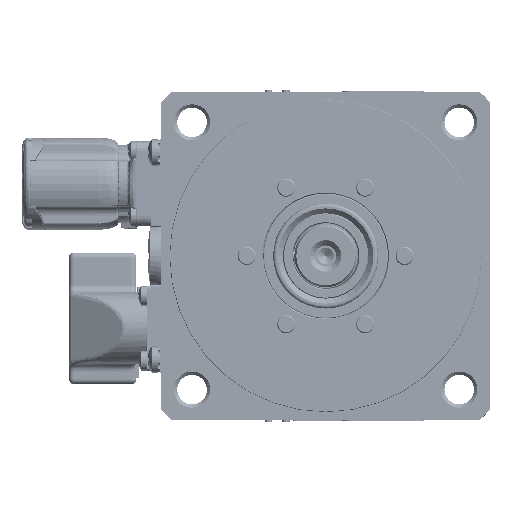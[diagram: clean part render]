
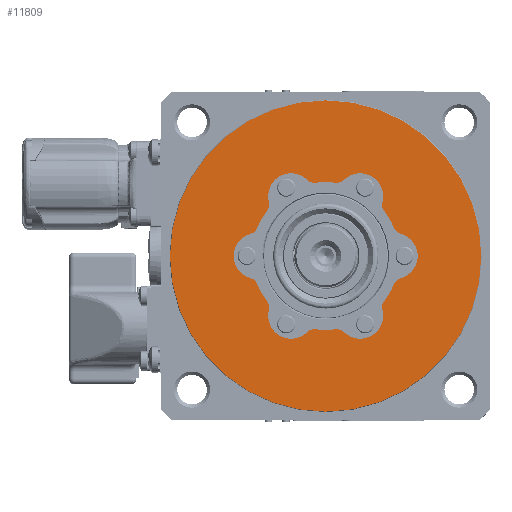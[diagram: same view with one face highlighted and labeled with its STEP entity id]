
A CAD part, left-side view. The second image highlights one B-rep face of the part: STEP entity #11809.
In plain terms, the highlighted planar face has unit normal (-1, 0, 0).
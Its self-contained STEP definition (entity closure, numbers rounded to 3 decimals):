
#169=CARTESIAN_POINT('',(1.,0.,
0.));
#170=DIRECTION('',(-1.,0.,0.));
#171=DIRECTION('',(0.,1.,0.));
#172=AXIS2_PLACEMENT_3D('',#169,#170,#171);
#177=CARTESIAN_POINT('',(1.,0.,
0.));
#178=DIRECTION('',(-1.,0.,0.));
#179=DIRECTION('',(0.,-1.,0.));
#180=AXIS2_PLACEMENT_3D('',#177,#178,#179);
#185=CARTESIAN_POINT('',(1.,0.,0.));
#186=DIRECTION('',(-1.,0.,0.));
#187=DIRECTION('',(0.,0.926,-0.379));
#188=AXIS2_PLACEMENT_3D('',#185,#186,#187);
#215=CARTESIAN_POINT('',(1.,0.,0.));
#216=DIRECTION('',(-1.,0.,0.));
#217=DIRECTION('',(0.,0.135,-0.991));
#218=AXIS2_PLACEMENT_3D('',#215,#216,#217);
#245=CARTESIAN_POINT('',(1.,0.,0.));
#246=DIRECTION('',(-1.,0.,0.));
#247=DIRECTION('',(0.,-0.791,-0.612));
#248=AXIS2_PLACEMENT_3D('',#245,#246,#247);
#275=CARTESIAN_POINT('',(1.,0.,0.));
#276=DIRECTION('',(-1.,0.,0.));
#277=DIRECTION('',(0.,-0.926,0.379));
#278=AXIS2_PLACEMENT_3D('',#275,#276,#277);
#305=CARTESIAN_POINT('',(1.,0.,0.));
#306=DIRECTION('',(-1.,0.,0.));
#307=DIRECTION('',(0.,-0.135,0.991));
#308=AXIS2_PLACEMENT_3D('',#305,#306,#307);
#342=CARTESIAN_POINT('',(1.,0.,0.));
#343=DIRECTION('',(-1.,0.,0.));
#344=DIRECTION('',(0.,0.791,0.612));
#345=AXIS2_PLACEMENT_3D('',#342,#343,#344);
#365=CARTESIAN_POINT('',(1.,23.601,-9.656));
#366=DIRECTION('',(-1.,0.,0.));
#367=DIRECTION('',(0.,-0.926,0.379));
#368=AXIS2_PLACEMENT_3D('',#365,#366,#367);
#381=CARTESIAN_POINT('',(1.,21.,0.));
#382=DIRECTION('',(-1.,0.,0.));
#383=DIRECTION('',(0.,0.26,0.966));
#384=AXIS2_PLACEMENT_3D('',#381,#382,#383);
#403=CARTESIAN_POINT('',(1.,23.601,9.656));
#404=DIRECTION('',(1.,0.,0.));
#405=DIRECTION('',(0.,-0.926,-0.379));
#406=AXIS2_PLACEMENT_3D('',#403,#404,#405);
#579=CARTESIAN_POINT('',(1.,20.163,15.611));
#580=DIRECTION('',(-1.,0.,0.));
#581=DIRECTION('',(0.,-0.791,-0.612));
#582=AXIS2_PLACEMENT_3D('',#579,#580,#581);
#595=CARTESIAN_POINT('',(1.,10.5,18.187));
#596=DIRECTION('',(-1.,0.,0.));
#597=DIRECTION('',(0.,-0.706,0.708));
#598=AXIS2_PLACEMENT_3D('',#595,#596,#597);
#617=CARTESIAN_POINT('',(1.,3.438,25.267));
#618=DIRECTION('',(1.,0.,0.));
#619=DIRECTION('',(0.,-0.135,-0.991));
#620=AXIS2_PLACEMENT_3D('',#617,#618,#619);
#633=CARTESIAN_POINT('',(1.,-3.438,25.267));
#634=DIRECTION('',(-1.,0.,0.));
#635=DIRECTION('',(0.,0.135,-0.991));
#636=AXIS2_PLACEMENT_3D('',#633,#634,#635);
#649=CARTESIAN_POINT('',(1.,-10.5,18.187));
#650=DIRECTION('',(-1.,0.,0.));
#651=DIRECTION('',(0.,-0.966,-0.258));
#652=AXIS2_PLACEMENT_3D('',#649,#650,#651);
#671=CARTESIAN_POINT('',(1.,-20.163,15.611));
#672=DIRECTION('',(1.,0.,0.));
#673=DIRECTION('',(0.,0.791,-0.612));
#674=AXIS2_PLACEMENT_3D('',#671,#672,#673);
#687=CARTESIAN_POINT('',(1.,-23.601,9.656));
#688=DIRECTION('',(-1.,0.,0.));
#689=DIRECTION('',(0.,0.926,-0.379));
#690=AXIS2_PLACEMENT_3D('',#687,#688,#689);
#703=CARTESIAN_POINT('',(1.,-21.,0.));
#704=DIRECTION('',(-1.,0.,0.));
#705=DIRECTION('',(0.,-0.26,-0.966));
#706=AXIS2_PLACEMENT_3D('',#703,#704,#705);
#725=CARTESIAN_POINT('',(1.,-23.601,-9.656));
#726=DIRECTION('',(1.,0.,0.));
#727=DIRECTION('',(0.,0.926,0.379));
#728=AXIS2_PLACEMENT_3D('',#725,#726,#727);
#741=CARTESIAN_POINT('',(1.,-20.163,-15.611));
#742=DIRECTION('',(-1.,0.,0.));
#743=DIRECTION('',(0.,0.791,0.612));
#744=AXIS2_PLACEMENT_3D('',#741,#742,#743);
#757=CARTESIAN_POINT('',(1.,-10.5,-18.187));
#758=DIRECTION('',(-1.,0.,0.));
#759=DIRECTION('',(0.,0.706,-0.708));
#760=AXIS2_PLACEMENT_3D('',#757,#758,#759);
#779=CARTESIAN_POINT('',(1.,-3.438,-25.267));
#780=DIRECTION('',(1.,0.,0.));
#781=DIRECTION('',(0.,0.135,0.991));
#782=AXIS2_PLACEMENT_3D('',#779,#780,#781);
#795=CARTESIAN_POINT('',(1.,3.438,-25.267));
#796=DIRECTION('',(-1.,0.,0.));
#797=DIRECTION('',(0.,-0.135,0.991));
#798=AXIS2_PLACEMENT_3D('',#795,#796,#797);
#811=CARTESIAN_POINT('',(1.,10.5,-18.187));
#812=DIRECTION('',(-1.,0.,0.));
#813=DIRECTION('',(0.,0.966,0.258));
#814=AXIS2_PLACEMENT_3D('',#811,#812,#813);
#833=CARTESIAN_POINT('',(1.,20.163,-15.611));
#834=DIRECTION('',(1.,0.,0.));
#835=DIRECTION('',(0.,-0.791,0.612));
#836=AXIS2_PLACEMENT_3D('',#833,#834,#835);
#10721=CARTESIAN_POINT('',(1.,47.361,0.));
#10722=CARTESIAN_POINT('',(1.,-47.361,
0.));
#10723=VERTEX_POINT('',#10721);
#10724=VERTEX_POINT('',#10722);
#10853=CARTESIAN_POINT('',(1.,20.825,-8.52));
#10854=CARTESIAN_POINT('',(1.,17.791,-13.775));
#10855=VERTEX_POINT('',#10853);
#10856=VERTEX_POINT('',#10854);
#10857=CARTESIAN_POINT('',(1.,3.034,-22.295));
#10858=CARTESIAN_POINT('',(1.,-3.034,-22.295));
#10859=VERTEX_POINT('',#10857);
#10860=VERTEX_POINT('',#10858);
#10861=CARTESIAN_POINT('',(1.,-17.791,-13.775));
#10862=CARTESIAN_POINT('',(1.,-20.825,-8.52));
#10863=VERTEX_POINT('',#10861);
#10864=VERTEX_POINT('',#10862);
#10865=CARTESIAN_POINT('',(1.,-20.825,8.52));
#10866=CARTESIAN_POINT('',(1.,-17.791,13.775));
#10867=VERTEX_POINT('',#10865);
#10868=VERTEX_POINT('',#10866);
#10869=CARTESIAN_POINT('',(1.,-3.034,22.295));
#10870=CARTESIAN_POINT('',(1.,3.034,22.295));
#10871=VERTEX_POINT('',#10869);
#10872=VERTEX_POINT('',#10870);
#10873=CARTESIAN_POINT('',(1.,22.821,6.759));
#10874=CARTESIAN_POINT('',(1.,22.821,-6.759));
#10875=VERTEX_POINT('',#10873);
#10876=VERTEX_POINT('',#10874);
#10877=CARTESIAN_POINT('',(1.,17.264,-16.384));
#10878=CARTESIAN_POINT('',(1.,5.557,-23.143));
#10879=VERTEX_POINT('',#10877);
#10880=VERTEX_POINT('',#10878);
#10881=CARTESIAN_POINT('',(1.,-5.557,-23.143));
#10882=CARTESIAN_POINT('',(1.,-17.264,-16.384));
#10883=VERTEX_POINT('',#10881);
#10884=VERTEX_POINT('',#10882);
#10885=CARTESIAN_POINT('',(1.,-22.821,-6.759));
#10886=CARTESIAN_POINT('',(1.,-22.821,6.759));
#10887=VERTEX_POINT('',#10885);
#10888=VERTEX_POINT('',#10886);
#10889=CARTESIAN_POINT('',(1.,-17.264,16.384));
#10890=CARTESIAN_POINT('',(1.,-5.557,23.143));
#10891=VERTEX_POINT('',#10889);
#10892=VERTEX_POINT('',#10890);
#10941=CARTESIAN_POINT('',(1.,20.825,8.52));
#10942=VERTEX_POINT('',#10941);
#11083=CARTESIAN_POINT('',(1.,17.791,13.775));
#11084=VERTEX_POINT('',#11083);
#11085=CARTESIAN_POINT('',(1.,5.557,23.143));
#11086=CARTESIAN_POINT('',(1.,17.264,16.384));
#11087=VERTEX_POINT('',#11085);
#11088=VERTEX_POINT('',#11086);
#11750=CARTESIAN_POINT('',(1.,0.,0.));
#11751=DIRECTION('',(1.,0.,0.));
#11752=DIRECTION('',(0.,-1.,0.));
#11753=AXIS2_PLACEMENT_3D('',#11750,#11751,#11752);
#11754=PLANE('',#11753);
#11755=ORIENTED_EDGE('',*,*,#11745,.F.);
#11756=ORIENTED_EDGE('',*,*,#11729,.F.);
#11757=EDGE_LOOP('',(#11755,#11756));
#11758=FACE_OUTER_BOUND('',#11757,.F.);
#11760=ORIENTED_EDGE('',*,*,#11759,.T.);
#11762=ORIENTED_EDGE('',*,*,#11761,.T.);
#11764=ORIENTED_EDGE('',*,*,#11763,.T.);
#11766=ORIENTED_EDGE('',*,*,#11765,.F.);
#11768=ORIENTED_EDGE('',*,*,#11767,.T.);
#11770=ORIENTED_EDGE('',*,*,#11769,.T.);
#11772=ORIENTED_EDGE('',*,*,#11771,.T.);
#11774=ORIENTED_EDGE('',*,*,#11773,.F.);
#11776=ORIENTED_EDGE('',*,*,#11775,.T.);
#11778=ORIENTED_EDGE('',*,*,#11777,.T.);
#11780=ORIENTED_EDGE('',*,*,#11779,.T.);
#11782=ORIENTED_EDGE('',*,*,#11781,.F.);
#11784=ORIENTED_EDGE('',*,*,#11783,.T.);
#11786=ORIENTED_EDGE('',*,*,#11785,.T.);
#11788=ORIENTED_EDGE('',*,*,#11787,.T.);
#11790=ORIENTED_EDGE('',*,*,#11789,.F.);
#11792=ORIENTED_EDGE('',*,*,#11791,.T.);
#11794=ORIENTED_EDGE('',*,*,#11793,.T.);
#11796=ORIENTED_EDGE('',*,*,#11795,.T.);
#11798=ORIENTED_EDGE('',*,*,#11797,.F.);
#11800=ORIENTED_EDGE('',*,*,#11799,.T.);
#11802=ORIENTED_EDGE('',*,*,#11801,.T.);
#11804=ORIENTED_EDGE('',*,*,#11803,.T.);
#11806=ORIENTED_EDGE('',*,*,#11805,.F.);
#11807=EDGE_LOOP('',(#11760,#11762,#11764,#11766,#11768,#11770,#11772,#11774,
#11776,#11778,#11780,#11782,#11784,#11786,#11788,#11790,#11792,#11794,#11796,
#11798,#11800,#11802,#11804,#11806));
#11808=FACE_BOUND('',#11807,.F.);
#173=CIRCLE('',#172,47.361);
#181=CIRCLE('',#180,47.361);
#189=CIRCLE('',#188,22.5);
#219=CIRCLE('',#218,22.5);
#249=CIRCLE('',#248,22.5);
#279=CIRCLE('',#278,22.5);
#309=CIRCLE('',#308,22.5);
#346=CIRCLE('',#345,22.5);
#369=CIRCLE('',#368,3.);
#385=CIRCLE('',#384,7.);
#407=CIRCLE('',#406,3.);
#583=CIRCLE('',#582,3.);
#599=CIRCLE('',#598,7.);
#621=CIRCLE('',#620,3.);
#637=CIRCLE('',#636,3.);
#653=CIRCLE('',#652,7.);
#675=CIRCLE('',#674,3.);
#691=CIRCLE('',#690,3.);
#707=CIRCLE('',#706,7.);
#729=CIRCLE('',#728,3.);
#745=CIRCLE('',#744,3.);
#761=CIRCLE('',#760,7.);
#783=CIRCLE('',#782,3.);
#799=CIRCLE('',#798,3.);
#815=CIRCLE('',#814,7.);
#837=CIRCLE('',#836,3.);
#11729=EDGE_CURVE('',#10724,#10723,#181,.T.);
#11745=EDGE_CURVE('',#10723,#10724,#173,.T.);
#11759=EDGE_CURVE('',#10855,#10856,#189,.T.);
#11761=EDGE_CURVE('',#10856,#10879,#837,.T.);
#11763=EDGE_CURVE('',#10879,#10880,#815,.T.);
#11765=EDGE_CURVE('',#10859,#10880,#799,.T.);
#11767=EDGE_CURVE('',#10859,#10860,#219,.T.);
#11769=EDGE_CURVE('',#10860,#10883,#783,.T.);
#11771=EDGE_CURVE('',#10883,#10884,#761,.T.);
#11773=EDGE_CURVE('',#10863,#10884,#745,.T.);
#11775=EDGE_CURVE('',#10863,#10864,#249,.T.);
#11777=EDGE_CURVE('',#10864,#10887,#729,.T.);
#11779=EDGE_CURVE('',#10887,#10888,#707,.T.);
#11781=EDGE_CURVE('',#10867,#10888,#691,.T.);
#11783=EDGE_CURVE('',#10867,#10868,#279,.T.);
#11785=EDGE_CURVE('',#10868,#10891,#675,.T.);
#11787=EDGE_CURVE('',#10891,#10892,#653,.T.);
#11789=EDGE_CURVE('',#10871,#10892,#637,.T.);
#11791=EDGE_CURVE('',#10871,#10872,#309,.T.);
#11793=EDGE_CURVE('',#10872,#11087,#621,.T.);
#11795=EDGE_CURVE('',#11087,#11088,#599,.T.);
#11797=EDGE_CURVE('',#11084,#11088,#583,.T.);
#11799=EDGE_CURVE('',#11084,#10942,#346,.T.);
#11801=EDGE_CURVE('',#10942,#10875,#407,.T.);
#11803=EDGE_CURVE('',#10875,#10876,#385,.T.);
#11805=EDGE_CURVE('',#10855,#10876,#369,.T.);
#11809=ADVANCED_FACE('',(#11758,#11808),#11754,.F.);
